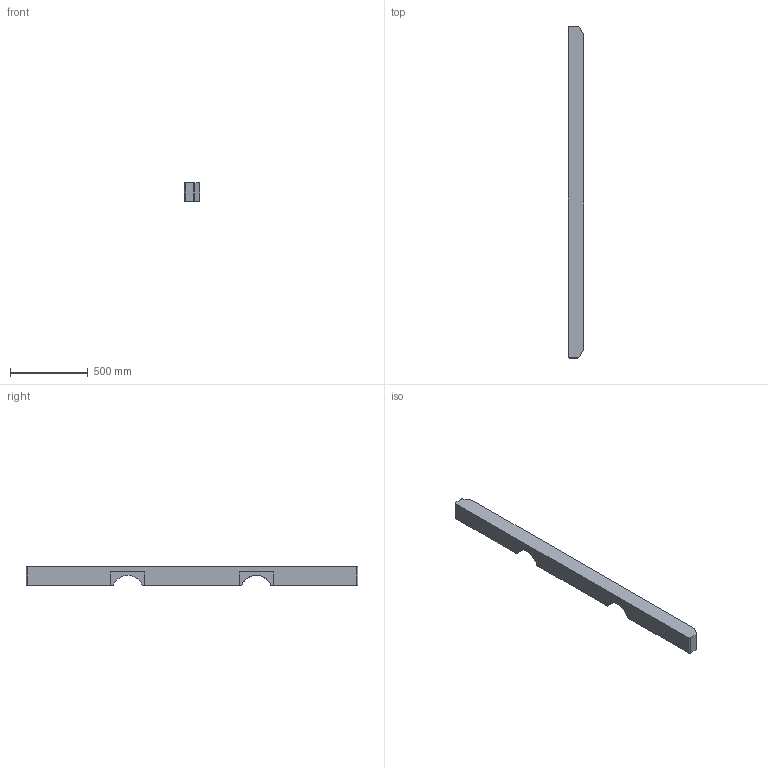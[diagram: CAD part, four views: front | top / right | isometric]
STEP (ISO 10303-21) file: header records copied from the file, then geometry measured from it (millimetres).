
FILE_DESCRIPTION(('CATIA V5 STEP Exchange'),'2;1');
FILE_NAME('E:\工作\张长江\H6-长卧铺数据制作\卧铺数据-1217\外发数据-20230203\SHT0015462.stp','2023-02-03T03:27:00+00:00',('none'),('none'),'CATIA Version 5 Release 20 GA (IN-10)','CATIA V5 STEP AP214','none');
FILE_SCHEMA(('AUTOMOTIVE_DESIGN { 1 0 10303 214 1 1 1 1 }'));
Length unit declared in the file: millimetre
Products named in the file (3): SHT0015462; SHT0015463; SHT0015461
Assembly tree (3 placements, depth 2):
  SHT0015462
    SHT0015463
    SHT0015461  x2
Bounding box: 102 x 2132 x 118.2 mm (x, y, z)
Volume: 25813458 mm3; surface area: 1104404.7 mm2
Topology: 3 solids, 3 shells, 34 faces, 84 edges, 56 vertices
Faces by surface type: plane 24, cylinder 10
Entity records: 906 total; most frequent: CARTESIAN_POINT 186, DIRECTION 137, ORIENTED_EDGE 132, EDGE_CURVE 66, AXIS2_PLACEMENT_3D 52, VECTOR 48, LINE 48, VERTEX_POINT 44
